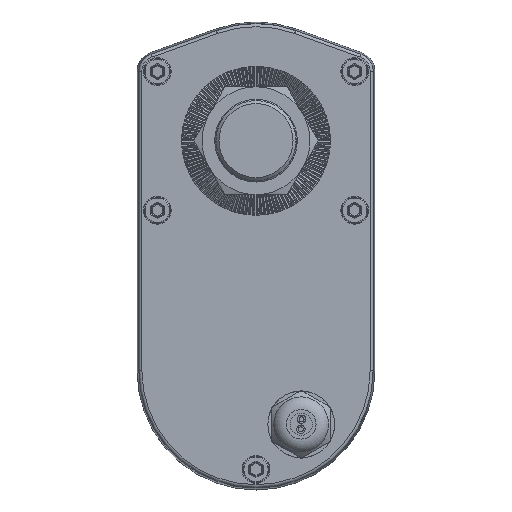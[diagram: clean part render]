
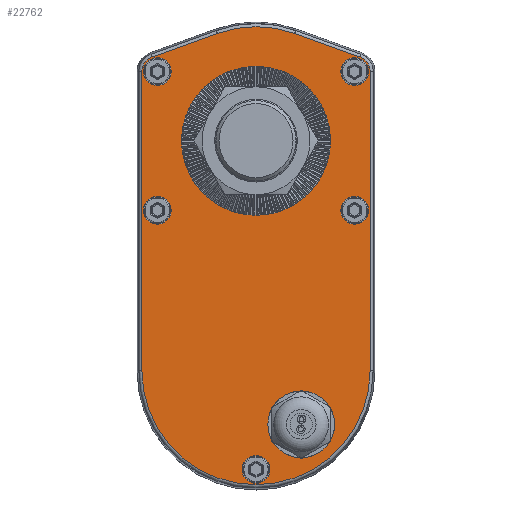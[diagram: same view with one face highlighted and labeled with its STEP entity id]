
A CAD part, top view. The second image highlights one B-rep face of the part: STEP entity #22762.
In plain terms, the highlighted planar face has unit normal (0, 0, 1).
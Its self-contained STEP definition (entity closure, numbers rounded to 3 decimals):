
#397 = AXIS2_PLACEMENT_3D ( 'NONE', #21177, #7550, #23460 ) ;
#428 = EDGE_CURVE ( 'NONE', #21070, #21070, #24879, .T. ) ;
#452 = CARTESIAN_POINT ( 'NONE',  ( 37.012, 22.46, 40. ) ) ;
#556 = EDGE_CURVE ( 'NONE', #17841, #3318, #27357, .T. ) ;
#1747 = DIRECTION ( 'NONE',  ( 0., 0., 1. ) ) ;
#1959 = AXIS2_PLACEMENT_3D ( 'NONE', #24142, #10502, #26433 ) ;
#2074 = DIRECTION ( 'NONE',  ( -1., 0., 0. ) ) ;
#2122 = CIRCLE ( 'NONE', #11499, 24.1 ) ;
#2214 = CARTESIAN_POINT ( 'NONE',  ( 37.012, 22.46, 40. ) ) ;
#2236 = ORIENTED_EDGE ( 'NONE', *, *, #14795, .T. ) ;
#2297 = FACE_BOUND ( 'NONE', #10119, .T. ) ;
#2309 = DIRECTION ( 'NONE',  ( -1., 0., 0. ) ) ;
#2370 = DIRECTION ( 'NONE',  ( 0., 0., -1. ) ) ;
#2418 = VECTOR ( 'NONE', #23311, 1000. ) ;
#2474 = CARTESIAN_POINT ( 'NONE',  ( 32., -22.54, 40. ) ) ;
#2524 = VERTEX_POINT ( 'NONE', #14621 ) ;
#2605 = AXIS2_PLACEMENT_3D ( 'NONE', #15365, #1747, #17663 ) ;
#2936 = CIRCLE ( 'NONE', #6586, 4.5 ) ;
#3304 = CARTESIAN_POINT ( 'NONE',  ( -33.701, 27.179, 40. ) ) ;
#3318 = VERTEX_POINT ( 'NONE', #11940 ) ;
#3927 = EDGE_CURVE ( 'NONE', #7537, #7537, #2122, .T. ) ;
#4489 = EDGE_CURVE ( 'NONE', #12868, #12868, #25585, .T. ) ;
#4757 = DIRECTION ( 'NONE',  ( -1., 0., 0. ) ) ;
#4900 = CIRCLE ( 'NONE', #397, 7.875 ) ;
#5067 = ORIENTED_EDGE ( 'NONE', *, *, #5745, .T. ) ;
#5178 = CARTESIAN_POINT ( 'NONE',  ( -27.5, 22.46, 40. ) ) ;
#5263 = AXIS2_PLACEMENT_3D ( 'NONE', #25398, #11770, #27694 ) ;
#5745 = EDGE_CURVE ( 'NONE', #16623, #8667, #6651, .T. ) ;
#5785 = VERTEX_POINT ( 'NONE', #17457 ) ;
#5924 = VECTOR ( 'NONE', #28690, 1000. ) ;
#5975 = EDGE_CURVE ( 'NONE', #18197, #18197, #13765, .T. ) ;
#6006 = CARTESIAN_POINT ( 'NONE',  ( -37.012, -74.495, 40. ) ) ;
#6456 = ORIENTED_EDGE ( 'NONE', *, *, #6726, .T. ) ;
#6586 = AXIS2_PLACEMENT_3D ( 'NONE', #11702, #27628, #13982 ) ;
#6651 = LINE ( 'NONE', #6006, #5924 ) ;
#6726 = EDGE_CURVE ( 'NONE', #26771, #5785, #14771, .T. ) ;
#7075 = EDGE_LOOP ( 'NONE', ( #17318 ) ) ;
#7260 = CARTESIAN_POINT ( 'NONE',  ( -37.012, -74.495, 40. ) ) ;
#7537 = VERTEX_POINT ( 'NONE', #18927 ) ;
#7550 = DIRECTION ( 'NONE',  ( 0., 0., 1. ) ) ;
#8363 = FACE_BOUND ( 'NONE', #26270, .T. ) ;
#8667 = VERTEX_POINT ( 'NONE', #7260 ) ;
#8683 = ORIENTED_EDGE ( 'NONE', *, *, #28540, .F. ) ;
#8851 = ORIENTED_EDGE ( 'NONE', *, *, #428, .F. ) ;
#8894 = DIRECTION ( 'NONE',  ( 0., 0., 1. ) ) ;
#8934 = VERTEX_POINT ( 'NONE', #28560 ) ;
#9701 = EDGE_LOOP ( 'NONE', ( #18339 ) ) ;
#9798 = AXIS2_PLACEMENT_3D ( 'NONE', #2474, #18393, #4757 ) ;
#9853 = CIRCLE ( 'NONE', #1959, 4.5 ) ;
#10119 = EDGE_LOOP ( 'NONE', ( #8683 ) ) ;
#10430 = ORIENTED_EDGE ( 'NONE', *, *, #11017, .T. ) ;
#10502 = DIRECTION ( 'NONE',  ( 0., 0., 1. ) ) ;
#11017 = EDGE_CURVE ( 'NONE', #5785, #17841, #18766, .T. ) ;
#11023 = AXIS2_PLACEMENT_3D ( 'NONE', #11329, #2370, #18307 ) ;
#11155 = EDGE_CURVE ( 'NONE', #22112, #22112, #9853, .T. ) ;
#11329 = CARTESIAN_POINT ( 'NONE',  ( 0., 0., 40. ) ) ;
#11499 = AXIS2_PLACEMENT_3D ( 'NONE', #29598, #15926, #2309 ) ;
#11702 = CARTESIAN_POINT ( 'NONE',  ( 32., 22.46, 40. ) ) ;
#11770 = DIRECTION ( 'NONE',  ( 0., 0., 1. ) ) ;
#11940 = CARTESIAN_POINT ( 'NONE',  ( -12.586, 34.812, 40. ) ) ;
#12164 = AXIS2_PLACEMENT_3D ( 'NONE', #26412, #12801, #28695 ) ;
#12217 = CARTESIAN_POINT ( 'NONE',  ( 12.586, 34.812, 40. ) ) ;
#12355 = CARTESIAN_POINT ( 'NONE',  ( 0., 0., 40. ) ) ;
#12708 = VECTOR ( 'NONE', #21381, 1000. ) ;
#12801 = DIRECTION ( 'NONE',  ( 0., 0., 1. ) ) ;
#12868 = VERTEX_POINT ( 'NONE', #23502 ) ;
#12875 = VERTEX_POINT ( 'NONE', #28583 ) ;
#13123 = VECTOR ( 'NONE', #13666, 1000. ) ;
#13666 = DIRECTION ( 'NONE',  ( 0., 1., 0. ) ) ;
#13765 = CIRCLE ( 'NONE', #5263, 4.5 ) ;
#13817 = LINE ( 'NONE', #2214, #13123 ) ;
#13846 = ORIENTED_EDGE ( 'NONE', *, *, #5975, .F. ) ;
#13982 = DIRECTION ( 'NONE',  ( -1., 0., 0. ) ) ;
#14070 = EDGE_LOOP ( 'NONE', ( #13846 ) ) ;
#14323 = EDGE_LOOP ( 'NONE', ( #5067, #14661, #18434, #6456, #10430, #20176, #29576, #2236 ) ) ;
#14391 = FACE_BOUND ( 'NONE', #18687, .T. ) ;
#14527 = CARTESIAN_POINT ( 'NONE',  ( 4.5, -106.54, 40. ) ) ;
#14621 = CARTESIAN_POINT ( 'NONE',  ( 6.781, -91.966, 40. ) ) ;
#14639 = DIRECTION ( 'NONE',  ( -1., 0., 0. ) ) ;
#14661 = ORIENTED_EDGE ( 'NONE', *, *, #26632, .T. ) ;
#14771 = CIRCLE ( 'NONE', #12164, 5.017 ) ;
#14795 = EDGE_CURVE ( 'NONE', #16067, #16623, #25240, .T. ) ;
#15365 = CARTESIAN_POINT ( 'NONE',  ( -32., 22.46, 40. ) ) ;
#15507 = EDGE_CURVE ( 'NONE', #2524, #2524, #4900, .T. ) ;
#15687 = DIRECTION ( 'NONE',  ( 0., 0., 1. ) ) ;
#15816 = FACE_BOUND ( 'NONE', #14070, .T. ) ;
#15926 = DIRECTION ( 'NONE',  ( 0., 0., 1. ) ) ;
#16011 = PLANE ( 'NONE',  #11023 ) ;
#16067 = VERTEX_POINT ( 'NONE', #3304 ) ;
#16262 = EDGE_CURVE ( 'NONE', #12875, #26771, #13817, .T. ) ;
#16623 = VERTEX_POINT ( 'NONE', #26885 ) ;
#16842 = ORIENTED_EDGE ( 'NONE', *, *, #3927, .F. ) ;
#17318 = ORIENTED_EDGE ( 'NONE', *, *, #15507, .F. ) ;
#17457 = CARTESIAN_POINT ( 'NONE',  ( 33.701, 27.179, 40. ) ) ;
#17663 = DIRECTION ( 'NONE',  ( 1., 0., 0. ) ) ;
#17790 = CIRCLE ( 'NONE', #27157, 37.012 ) ;
#17841 = VERTEX_POINT ( 'NONE', #24905 ) ;
#18197 = VERTEX_POINT ( 'NONE', #28087 ) ;
#18307 = DIRECTION ( 'NONE',  ( -1., 0., 0. ) ) ;
#18339 = ORIENTED_EDGE ( 'NONE', *, *, #4489, .F. ) ;
#18393 = DIRECTION ( 'NONE',  ( 0., 0., 1. ) ) ;
#18434 = ORIENTED_EDGE ( 'NONE', *, *, #16262, .T. ) ;
#18687 = EDGE_LOOP ( 'NONE', ( #16842 ) ) ;
#18766 = LINE ( 'NONE', #12217, #12708 ) ;
#18829 = EDGE_LOOP ( 'NONE', ( #27473 ) ) ;
#18927 = CARTESIAN_POINT ( 'NONE',  ( -24.1, 0., 40. ) ) ;
#19741 = FACE_BOUND ( 'NONE', #7075, .T. ) ;
#19856 = LINE ( 'NONE', #25601, #2418 ) ;
#20176 = ORIENTED_EDGE ( 'NONE', *, *, #556, .T. ) ;
#20469 = FACE_BOUND ( 'NONE', #18829, .T. ) ;
#21070 = VERTEX_POINT ( 'NONE', #5178 ) ;
#21177 = CARTESIAN_POINT ( 'NONE',  ( 14.656, -91.966, 40. ) ) ;
#21381 = DIRECTION ( 'NONE',  ( -0.94, 0.34, 0. ) ) ;
#22112 = VERTEX_POINT ( 'NONE', #14527 ) ;
#22510 = CARTESIAN_POINT ( 'NONE',  ( -31.995, 22.46, 40. ) ) ;
#22762 = ADVANCED_FACE ( 'NONE', ( #14391, #8363, #15816, #20469, #26503, #2297, #25793, #19741 ), #16011, .F. ) ;
#23311 = DIRECTION ( 'NONE',  ( -0.94, -0.34, 0. ) ) ;
#23460 = DIRECTION ( 'NONE',  ( -1., 0., 0. ) ) ;
#23502 = CARTESIAN_POINT ( 'NONE',  ( 27.5, -22.54, 40. ) ) ;
#24142 = CARTESIAN_POINT ( 'NONE',  ( 0., -106.54, 40. ) ) ;
#24796 = DIRECTION ( 'NONE',  ( -1., 0., 0. ) ) ;
#24879 = CIRCLE ( 'NONE', #2605, 4.5 ) ;
#24905 = CARTESIAN_POINT ( 'NONE',  ( 12.586, 34.812, 40. ) ) ;
#25240 = CIRCLE ( 'NONE', #25714, 5.017 ) ;
#25398 = CARTESIAN_POINT ( 'NONE',  ( -32., -22.54, 40. ) ) ;
#25491 = AXIS2_PLACEMENT_3D ( 'NONE', #12355, #28295, #14639 ) ;
#25585 = CIRCLE ( 'NONE', #9798, 4.5 ) ;
#25601 = CARTESIAN_POINT ( 'NONE',  ( -33.701, 27.179, 40. ) ) ;
#25714 = AXIS2_PLACEMENT_3D ( 'NONE', #22510, #8894, #24796 ) ;
#25793 = FACE_OUTER_BOUND ( 'NONE', #14323, .T. ) ;
#26270 = EDGE_LOOP ( 'NONE', ( #8851 ) ) ;
#26412 = CARTESIAN_POINT ( 'NONE',  ( 31.995, 22.46, 40. ) ) ;
#26433 = DIRECTION ( 'NONE',  ( 1., 0., 0. ) ) ;
#26503 = FACE_BOUND ( 'NONE', #9701, .T. ) ;
#26632 = EDGE_CURVE ( 'NONE', #8667, #12875, #17790, .T. ) ;
#26771 = VERTEX_POINT ( 'NONE', #452 ) ;
#26885 = CARTESIAN_POINT ( 'NONE',  ( -37.012, 22.46, 40. ) ) ;
#27157 = AXIS2_PLACEMENT_3D ( 'NONE', #29352, #15687, #2074 ) ;
#27357 = CIRCLE ( 'NONE', #25491, 37.017 ) ;
#27473 = ORIENTED_EDGE ( 'NONE', *, *, #11155, .F. ) ;
#27628 = DIRECTION ( 'NONE',  ( 0., 0., 1. ) ) ;
#27681 = EDGE_CURVE ( 'NONE', #3318, #16067, #19856, .T. ) ;
#27694 = DIRECTION ( 'NONE',  ( 1., 0., 0. ) ) ;
#28087 = CARTESIAN_POINT ( 'NONE',  ( -27.5, -22.54, 40. ) ) ;
#28295 = DIRECTION ( 'NONE',  ( 0., 0., 1. ) ) ;
#28540 = EDGE_CURVE ( 'NONE', #8934, #8934, #2936, .T. ) ;
#28560 = CARTESIAN_POINT ( 'NONE',  ( 27.5, 22.46, 40. ) ) ;
#28583 = CARTESIAN_POINT ( 'NONE',  ( 37.012, -74.495, 40. ) ) ;
#28690 = DIRECTION ( 'NONE',  ( 0., -1., 0. ) ) ;
#28695 = DIRECTION ( 'NONE',  ( -1., 0., 0. ) ) ;
#29352 = CARTESIAN_POINT ( 'NONE',  ( 0., -74.495, 40. ) ) ;
#29576 = ORIENTED_EDGE ( 'NONE', *, *, #27681, .T. ) ;
#29598 = CARTESIAN_POINT ( 'NONE',  ( 0., 0., 40. ) ) ;
